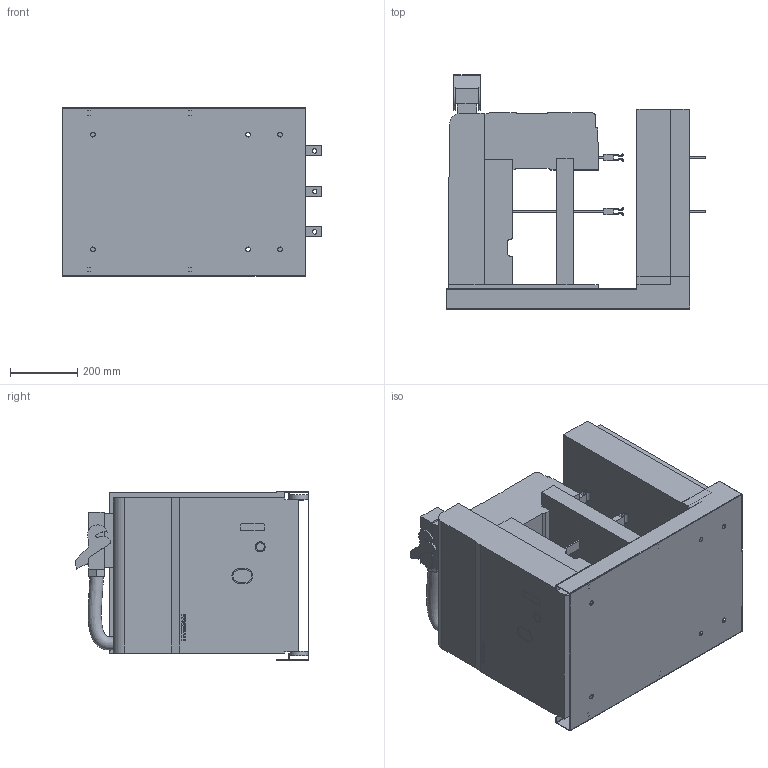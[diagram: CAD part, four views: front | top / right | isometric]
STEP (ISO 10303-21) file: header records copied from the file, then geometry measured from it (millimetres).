
FILE_DESCRIPTION(('STEP AP214'), '1');
FILE_NAME('Âûäâèæíîå èñïîëíåíèå 3,6_7,2êÂ, êîðçèíà êëàññà E_F (D5)', '', ('UNSPECIFIED'), ('UNSPECIFIED'), 'ASCON STEP Converter 1.3', 'ASCON Math Kernel', '');
FILE_SCHEMA(('AUTOMOTIVE_DESIGN { 1 0 10303 214 3 1 1}'));
Length unit declared in the file: millimetre
Bounding box: 767.57 x 693.06 x 500.01 mm (x, y, z)
Volume: 110946565.4 mm3; surface area: 3730741.5 mm2
Topology: 2 solids, 2 shells, 446 faces, 1222 edges, 804 vertices
Faces by surface type: plane 334, cylinder 85, extrusion 26, bspline 1
Full cylindrical faces by diameter (mm): 13 x6, 14 x6, 24 x1, 30 x1, 54 x4
Entity records: 19514 total; most frequent: CARTESIAN_POINT 4497, ORIENTED_EDGE 2404, DIRECTION 2209, EDGE_CURVE 1202, VECTOR 983, LINE 957, VERTEX_POINT 802, AXIS2_PLACEMENT_3D 613
